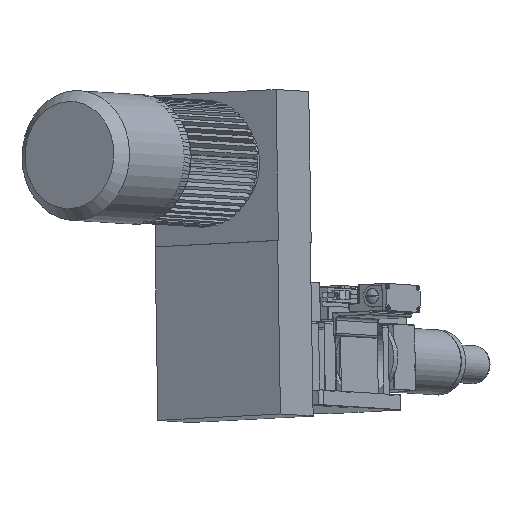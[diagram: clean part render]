
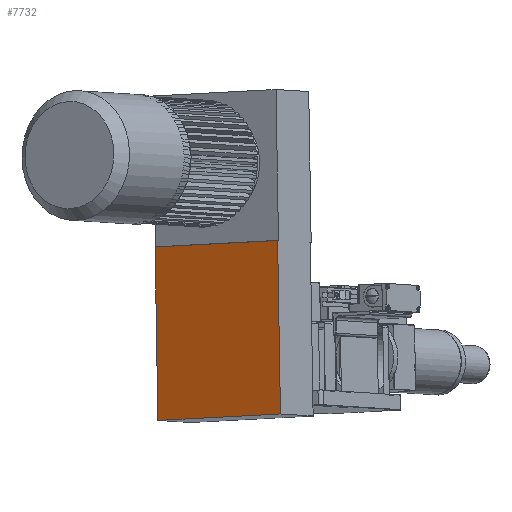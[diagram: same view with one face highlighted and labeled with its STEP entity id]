
A CAD part, left-side view. The second image highlights one B-rep face of the part: STEP entity #7732.
In plain terms, the highlighted planar face has unit normal (-0.827, 0.562, 0.036).
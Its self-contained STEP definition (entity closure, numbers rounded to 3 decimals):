
#7567=CARTESIAN_POINT('',(-223.664,26.346,227.698));
#7568=VERTEX_POINT('',#7567);
#7575=CARTESIAN_POINT('',(-236.117,22.624,-1.934));
#7576=VERTEX_POINT('',#7575);
#7577=CARTESIAN_POINT('',(-236.117,22.624,-1.934));
#7578=DIRECTION('',(0.054,0.016,0.998));
#7579=VECTOR('',#7578,230.);
#7580=LINE('',#7577,#7579);
#7581=EDGE_CURVE('',#7576,#7568,#7580,.T.);
#7606=CARTESIAN_POINT('',(-126.288,184.734,-10.517));
#7607=VERTEX_POINT('',#7606);
#7608=CARTESIAN_POINT('',(-126.288,184.734,-10.517));
#7609=DIRECTION('',(-0.56,-0.827,0.044));
#7610=VECTOR('',#7609,196.);
#7611=LINE('',#7608,#7610);
#7612=EDGE_CURVE('',#7607,#7576,#7611,.T.);
#7637=CARTESIAN_POINT('',(-113.834,188.456,219.115));
#7638=VERTEX_POINT('',#7637);
#7639=CARTESIAN_POINT('',(-126.288,184.734,-10.517));
#7640=DIRECTION('',(0.054,0.016,0.998));
#7641=VECTOR('',#7640,230.);
#7642=LINE('',#7639,#7641);
#7643=EDGE_CURVE('',#7607,#7638,#7642,.T.);
#7712=CARTESIAN_POINT('',(-113.834,188.456,219.115));
#7713=DIRECTION('',(-0.56,-0.827,0.044));
#7714=VECTOR('',#7713,196.0);
#7715=LINE('',#7712,#7714);
#7716=EDGE_CURVE('',#7638,#7568,#7715,.T.);
#7721=CARTESIAN_POINT('',(-126.288,184.734,-10.517));
#7722=DIRECTION('',(-0.826,0.562,0.036));
#7723=DIRECTION('',(-0.56,-0.827,0.044));
#7724=AXIS2_PLACEMENT_3D('',#7721,#7722,#7723);
#7725=PLANE('',#7724);
#7726=ORIENTED_EDGE('',*,*,#7581,.T.);
#7727=ORIENTED_EDGE('',*,*,#7716,.F.);
#7728=ORIENTED_EDGE('',*,*,#7643,.F.);
#7729=ORIENTED_EDGE('',*,*,#7612,.T.);
#7730=EDGE_LOOP('',(#7726,#7727,#7728,#7729));
#7731=FACE_OUTER_BOUND('',#7730,.T.);
#7732=ADVANCED_FACE('',(#7731),#7725,.T.);
